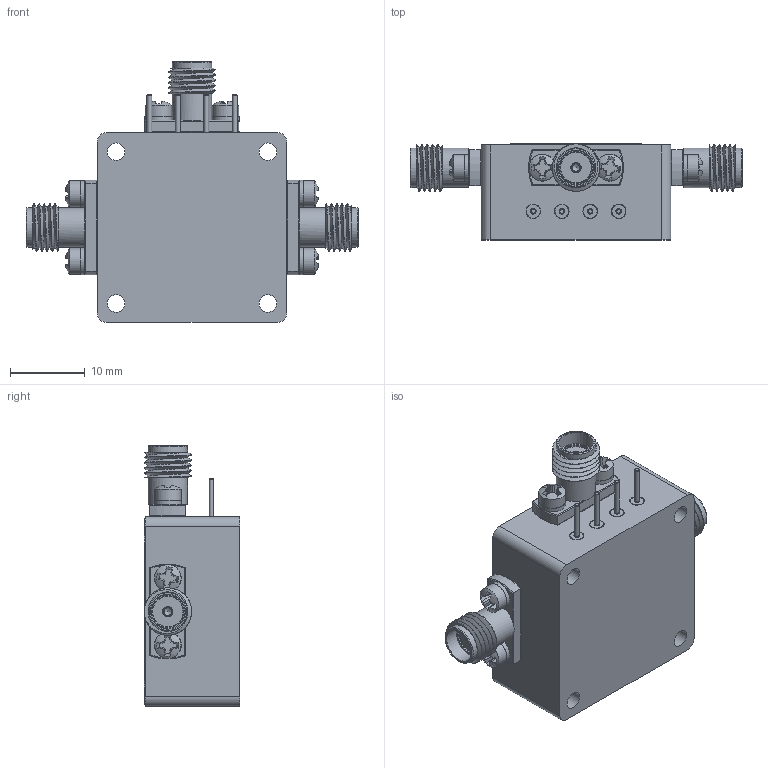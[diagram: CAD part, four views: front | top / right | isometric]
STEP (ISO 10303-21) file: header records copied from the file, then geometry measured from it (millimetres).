
FILE_DESCRIPTION (( 'STEP AP214' ), '1' );
FILE_NAME ('P2T-500M40G-60-R-55-292FF.STEP', '2026-08-14T17:41:35', ( '' ), ( '' ), 'SwSTEP 2.0', 'SolidWorks 2025', '' );
FILE_SCHEMA (( 'AUTOMOTIVE_DESIGN' ));
Length unit declared in the file: inch
Products named in the file (1): P2T-500M40G-60-R-55-292FF
Bounding box: 44.45 x 12.83 x 34.92 mm (x, y, z)
Volume: 8932.7 mm3; surface area: 6106.1 mm2
Topology: 27 solids, 27 shells, 680 faces, 2647 edges, 2252 vertices
Faces by surface type: plane 427, cylinder 112, torus 93, cone 36, bspline 6, sphere 6
Full cylindrical faces by diameter (mm): 0.381 x3, 0.635 x8, 1.016 x6, 1.27 x6, 1.93 x4, 1.956 x4, 2.184 x6, 2.337 x4, 2.591 x6, 3.302 x3, 3.556 x6, 4.191 x6, 4.597 x3, 5.283 x6
Entity records: 46444 total; most frequent: CARTESIAN_POINT 15764, ORIENTED_EDGE 4922, DIRECTION 3757, EDGE_CURVE 2461, VERTEX_POINT 2230, LINE 1285, VECTOR 1285, AXIS2_PLACEMENT_3D 1236
